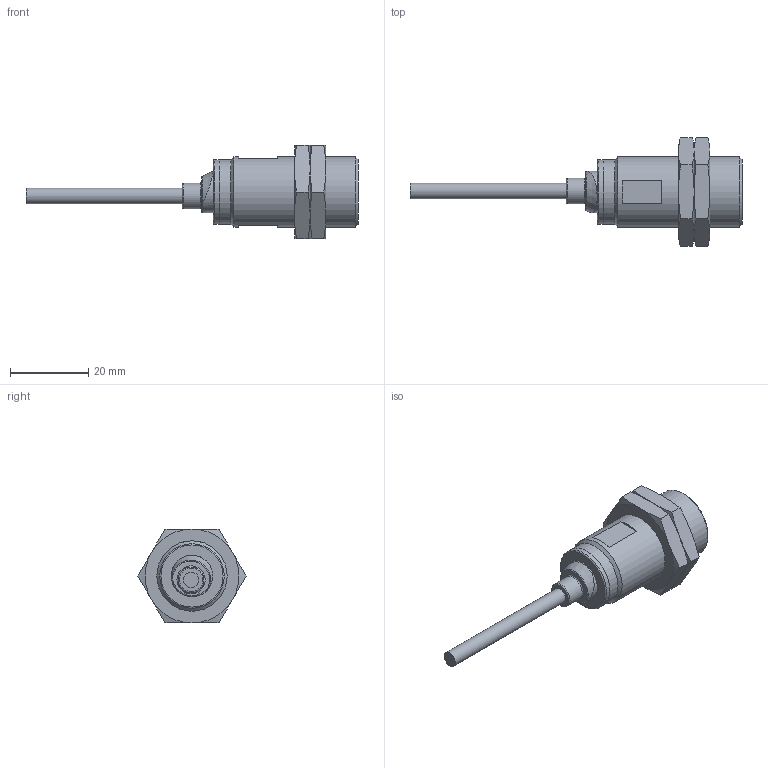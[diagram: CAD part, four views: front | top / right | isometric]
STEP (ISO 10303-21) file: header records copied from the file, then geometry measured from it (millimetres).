
FILE_DESCRIPTION( ( 'STEP AP203' ), '1' );
FILE_NAME( 'p:/temp/worker_174/1292_2224/app_56_02015052110540594962583192d056f_00_00_00_000/STEP/IGS700_2_03.stp', ' ', ( ' ' ), ( ' ' ), 'PSStep 15.0.47', 'PARTsolutions', ' ' );
FILE_SCHEMA( ( 'CONFIG_CONTROL_DESIGN' ) );
Length unit declared in the file: millimetre
Products named in the file (3): IGS700; _IGS700_p1; _IGS700_p2
Assembly tree (3 placements, depth 2):
  IGS700
    _IGS700_p1
    _IGS700_p2  x2
Bounding box: 85 x 27.71 x 24 mm (x, y, z)
Volume: 12289.1 mm3; surface area: 5295.9 mm2
Topology: 3 solids, 3 shells, 72 faces, 150 edges, 89 vertices
Faces by surface type: cone 31, plane 28, cylinder 8, torus 5
Full cylindrical faces by diameter (mm): 4 x1, 6.6 x1, 10.6 x1, 16.376 x2, 16.5 x1, 16.52 x1, 18 x1
Entity records: 1418 total; most frequent: CARTESIAN_POINT 377, DIRECTION 198, ORIENTED_EDGE 164, AXIS2_PLACEMENT_3D 92, EDGE_CURVE 82, EDGE_LOOP 71, FACE_OUTER_BOUND 59, VERTEX_POINT 57
